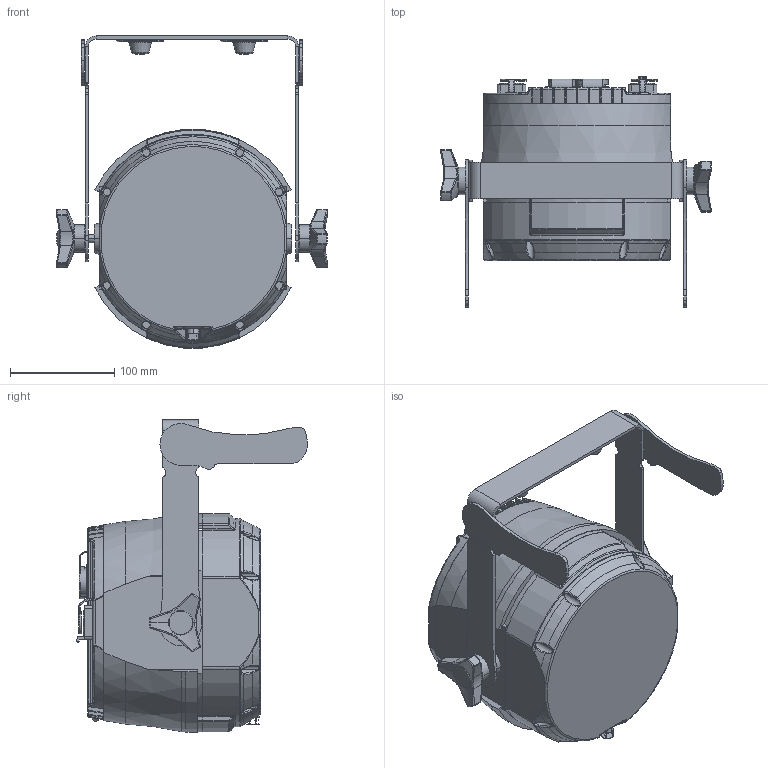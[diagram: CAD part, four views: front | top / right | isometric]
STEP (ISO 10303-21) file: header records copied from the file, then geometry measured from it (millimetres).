
FILE_DESCRIPTION((''),'2;1');
FILE_NAME('VEREINFACHT_SW0001','2020-04-05T14:43:03',('fw'),(''),'CREO PARAMETRIC BY PTC INC, 2018260','CREO PARAMETRIC BY PTC INC, 2018260','');
FILE_SCHEMA(('CONFIG_CONTROL_DESIGN'));
Products named in the file (1): VEREINFACHT_SW0001
Bounding box: 260.56 x 221.73 x 300.08 mm (x, y, z)
Surface area: 295334.9 mm2 (no closed solid volume)
Topology: 0 solids, 77 shells, 914 faces, 3420 edges, 2507 vertices
Faces by surface type: cylinder 316, plane 214, bspline 189, torus 104, cone 61, sphere 25, revolution 5
Entity records: 51319 total; most frequent: CARTESIAN_POINT 25550, ORIENTED_EDGE 5365, DIRECTION 4711, EDGE_CURVE 3412, VERTEX_POINT 2507, AXIS2_PLACEMENT_3D 1907, B_SPLINE_CURVE_WITH_KNOTS 1338, CIRCLE 1187
